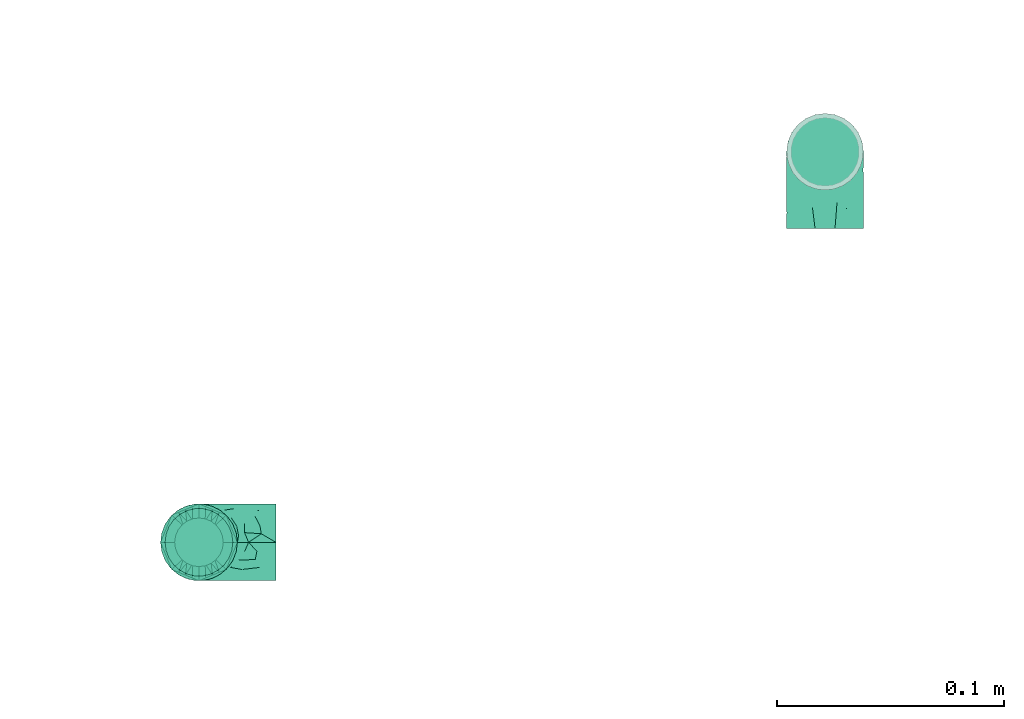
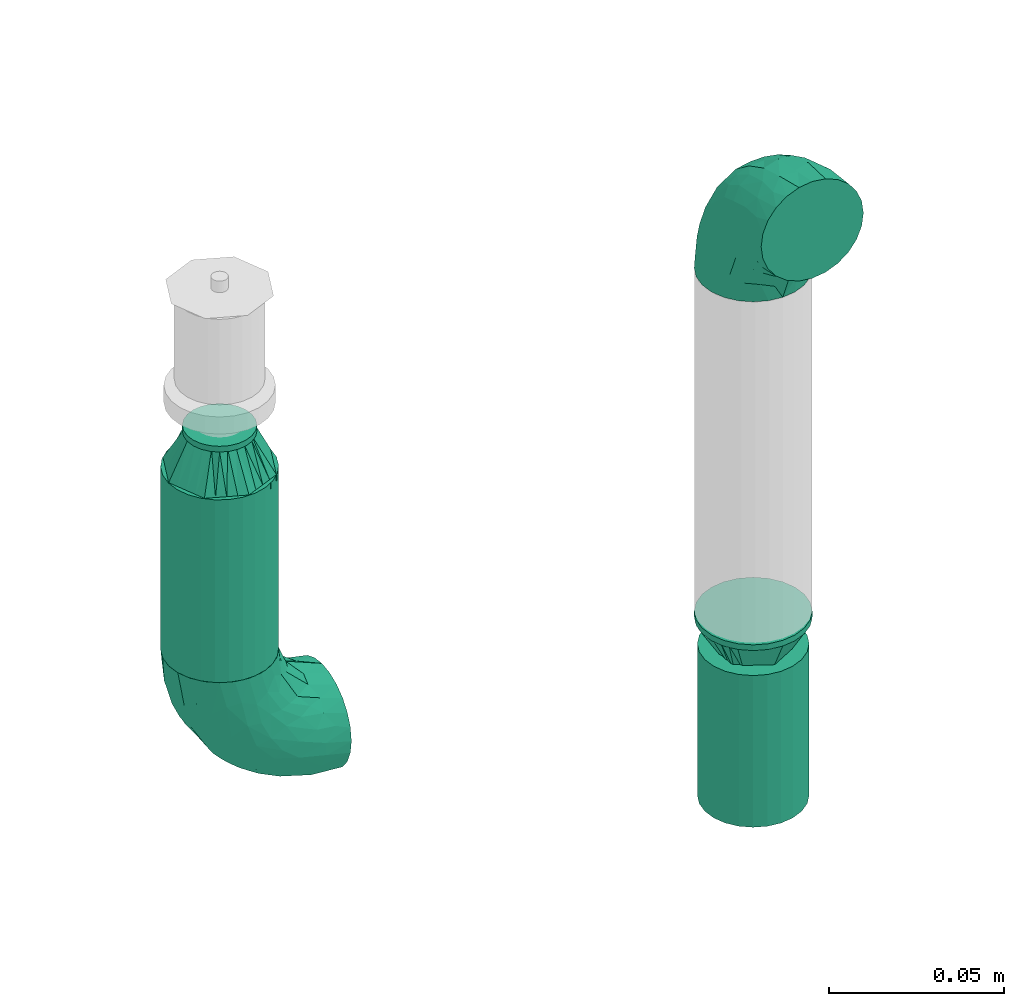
# One storey, part 128 of 157: 4 flow fittings, 1 flow segment, 1 flow terminal.
"""IFC2X3 building model written with IfcOpenShell, lengths in millimetres."""

import ifcopenshell
import ifcopenshell.guid

model = None  # the IFC model being written
_history = None  # IfcOwnerHistory: only IFC2X3 demands one
_inside = {}  # id of a spatial element -> (the spatial element, [elements in it])
_under = {}  # id of a project, library or spatial element -> (it, [spatial elements below it])
_declared = {}  # id of a project -> (the project, [libraries it declares])
_typed = {}  # id of a type object -> (the type object, [elements of that type])
_made_of = {}  # id of a material, layer set ... -> (it, [elements and type objects made of it])


def new_model(schema):
    """Start an empty IFC model of exactly this schema.

    Asked for "IFC4X3", IfcOpenShell would pick the latest addendum, in which some entities
    have other attributes; the version numbers below select the first issue.
    IFC2X3 requires an IfcOwnerHistory on every rooted entity: one is made here for all.
    """
    global model, _history
    if schema == "IFC4X3":
        model = ifcopenshell.file(schema_version=(4, 3, 0, 0))
    else:
        model = ifcopenshell.file(schema=schema)
    _inside.clear()
    _under.clear()
    _declared.clear()
    _typed.clear()
    _made_of.clear()
    _history = None
    if model.schema == "IFC2X3":
        org = make("IfcOrganization", Name="unknown")
        user = make(
            "IfcPersonAndOrganization",
            ThePerson=make("IfcPerson", FamilyName="unknown"),
            TheOrganization=org,
        )
        app = make(
            "IfcApplication",
            ApplicationDeveloper=org,
            Version="unknown",
            ApplicationFullName="unknown",
            ApplicationIdentifier="unknown",
        )
        _history = make(
            "IfcOwnerHistory",
            OwningUser=user,
            OwningApplication=app,
            ChangeAction="ADDED",
            CreationDate=0,
        )
    return model


def make(cls, **values):
    """One entity of the class cls with the attributes given. An attribute that is None is left unset."""
    return model.create_entity(
        cls, **{name: value for name, value in values.items() if value is not None}
    )


def entity(cls, *values):
    """Any entity or typed value of the class cls, its attributes in the order of the schema. None: left unset."""
    e = model.create_entity(cls)
    for i, value in enumerate(values):
        if value is not None:
            e[i] = value
    return e


def rooted(cls, **values):
    """An entity with a GlobalId (a new one), such as an element, a storey or a relation."""
    return make(cls, GlobalId=ifcopenshell.guid.new(), OwnerHistory=_history, **values)


def si_unit(unit_type, name, prefix=None):
    """IfcSIUnit, for example si_unit("LENGTHUNIT", "METRE", prefix="MILLI")."""
    return make("IfcSIUnit", UnitType=unit_type, Prefix=prefix, Name=name)


def converted_unit(unit_type, name, factor, base, dimensions=None, offset=None):
    """IfcConversionBasedUnit, such as the inch: factor (a typed value) times the base unit."""
    return make(
        "IfcConversionBasedUnit"
        if offset is None
        else "IfcConversionBasedUnitWithOffset",
        ConversionOffset=offset,
        Dimensions=None
        if dimensions is None
        else entity("IfcDimensionalExponents", *dimensions),
        UnitType=unit_type,
        Name=name,
        ConversionFactor=make(
            "IfcMeasureWithUnit", ValueComponent=factor, UnitComponent=base
        ),
    )


def derived_unit(unit_type, elements):
    """IfcDerivedUnit: a product of units, each with its exponent."""
    return make(
        "IfcDerivedUnit",
        Elements=[
            make("IfcDerivedUnitElement", Unit=unit, Exponent=power)
            for unit, power in elements
        ],
        UnitType=unit_type,
    )


def assignment(units):
    """IfcUnitAssignment: the units of a project."""
    return None if units is None else make("IfcUnitAssignment", Units=units)


def point(xyz):
    """IfcCartesianPoint."""
    return None if xyz is None else make("IfcCartesianPoint", Coordinates=xyz)


def direction(xyz):
    """IfcDirection."""
    return None if xyz is None else make("IfcDirection", DirectionRatios=xyz)


def frame(location, z_axis=None, x_axis=None):
    """IfcAxis2Placement3D, a coordinate frame: its origin and axes. An axis left out is left unset."""
    return make(
        "IfcAxis2Placement3D",
        Location=point(location),
        Axis=direction(z_axis),
        RefDirection=direction(x_axis),
    )


def frame_2d(location, x_axis=None):
    """IfcAxis2Placement2D, a coordinate frame in the plane: its origin and x axis."""
    return make(
        "IfcAxis2Placement2D", Location=point(location), RefDirection=direction(x_axis)
    )


def origin_with_axes():
    """The frame at (0, 0, 0) with the z axis (0, 0, 1) and the x axis (1, 0, 0) written out."""
    return frame((0.0, 0.0, 0.0), z_axis=(0.0, 0.0, 1.0), x_axis=(1.0, 0.0, 0.0))


def origin_2d_with_axis():
    """The frame at (0, 0) in the plane with the x axis (1, 0) written out."""
    return frame_2d((0.0, 0.0), x_axis=(1.0, 0.0))


def place(relative_to, where):
    """IfcLocalPlacement: puts the frame where relative to a parent placement (None: the world)."""
    return make(
        "IfcLocalPlacement", PlacementRelTo=relative_to, RelativePlacement=where
    )


def context(
    kind, dimensions, precision=None, world=None, true_north=None, identifier=None
):
    """IfcGeometricRepresentationContext, for example the 3D "Model" context."""
    return make(
        "IfcGeometricRepresentationContext",
        ContextIdentifier=identifier,
        ContextType=kind,
        CoordinateSpaceDimension=dimensions,
        Precision=precision,
        WorldCoordinateSystem=world,
        TrueNorth=true_north,
    )


def subcontext(parent, identifier, kind, view, scale=None):
    """IfcGeometricRepresentationSubContext, for example "Body" below "Model"."""
    return make(
        "IfcGeometricRepresentationSubContext",
        ContextIdentifier=identifier,
        ContextType=kind,
        ParentContext=parent,
        TargetScale=scale,
        TargetView=view,
    )


def project(units=None, contexts=None):
    """IfcProject with its units and contexts."""
    return rooted(
        "IfcProject",
        Name="project",
        RepresentationContexts=contexts,
        UnitsInContext=assignment(units),
    )


def spatial(cls, under=None, at=None, **own):
    """A site, building, storey or space (cls), placed at a placement, below another one or the project."""
    s = rooted(cls, ObjectPlacement=at, **own)
    if under is not None:
        _under.setdefault(under.id(), (under, []))[1].append(s)
    return s


def profile(cls, at=None, kind="AREA", **sizes):
    """A parametric profile (cls). Its sizes go by their IFC names, for example OverallWidth=200.0."""
    return make(cls, ProfileType=kind, Position=at, **sizes)


def hollow_circle(**sizes):
    """IfcCircleHollowProfileDef."""
    return profile("IfcCircleHollowProfileDef", **sizes)


def extrude(swept, where, along, depth):
    """IfcExtrudedAreaSolid: the profile swept, set in the frame where, extruded along a direction by depth."""
    return make(
        "IfcExtrudedAreaSolid",
        SweptArea=swept,
        Position=where,
        ExtrudedDirection=direction(along),
        Depth=depth,
    )


def faces_of(points, faces, orient=None, outer=None):
    """IfcFace entities. A face is a list of loops; a loop is a list of indices into points, from 0.

    orient and outer hold one flag for each loop. By default every Orientation is true, the
    first loop of a face is its IfcFaceOuterBound and the others are IfcFaceBound.
    """
    made = []
    for i, loops in enumerate(faces):
        bounds = []
        for j, loop in enumerate(loops):
            is_outer = j == 0 if outer is None else outer[i][j]
            bounds.append(
                make(
                    "IfcFaceOuterBound" if is_outer else "IfcFaceBound",
                    Bound=make("IfcPolyLoop", Polygon=[points[k] for k in loop]),
                    Orientation=True if orient is None else orient[i][j],
                )
            )
        made.append(make("IfcFace", Bounds=bounds))
    return made


def open_shell(faces, orient=None, outer=None):
    """The faces of one IfcOpenShell. surface_model builds it on its shared points."""
    return ("IfcOpenShell", faces, orient, outer)


def surface_model(cls, points, shells):
    """IfcFaceBasedSurfaceModel or IfcShellBasedSurfaceModel (cls): surfaces that need not close."""
    shared = [point(p) for p in points]
    made = [make(c, CfsFaces=faces_of(shared, fs, o, b)) for c, fs, o, b in shells]
    if cls == "IfcFaceBasedSurfaceModel":
        return make(cls, FbsmFaces=made)
    return make(cls, SbsmBoundary=made)


def shape(context_of_items, identifier, shape_type, items):
    """IfcShapeRepresentation: the items that make up one representation, for example the "Body"."""
    return make(
        "IfcShapeRepresentation",
        ContextOfItems=context_of_items,
        RepresentationIdentifier=identifier,
        RepresentationType=shape_type,
        Items=items,
    )


def source(mapping_origin, context_of_items, identifier, shape_type, items):
    """IfcRepresentationMap: a shape defined once, which mapped items show again and again."""
    return make(
        "IfcRepresentationMap",
        MappingOrigin=mapping_origin,
        MappedRepresentation=shape(context_of_items, identifier, shape_type, items),
    )


def transform(
    local_origin,
    x_axis=None,
    y_axis=None,
    z_axis=None,
    scale=None,
    scale2=None,
    scale3=None,
    uniform=True,
):
    """IfcCartesianTransformationOperator3D, or its non-uniform kind. x_axis, y_axis, z_axis: its Axis1, 2, 3."""
    if uniform:
        return make(
            "IfcCartesianTransformationOperator3D",
            Axis1=direction(x_axis),
            Axis2=direction(y_axis),
            LocalOrigin=point(local_origin),
            Scale=scale,
            Axis3=direction(z_axis),
        )
    return make(
        "IfcCartesianTransformationOperator3DnonUniform",
        Axis1=direction(x_axis),
        Axis2=direction(y_axis),
        LocalOrigin=point(local_origin),
        Scale=scale,
        Axis3=direction(z_axis),
        Scale2=scale2,
        Scale3=scale3,
    )


def mapped(mapping_source, mapping_target):
    """IfcMappedItem: shows the shape of a source again, moved by a transform."""
    return make(
        "IfcMappedItem", MappingSource=mapping_source, MappingTarget=mapping_target
    )


def made_of(thing, what):
    """Note that an element or type object is made of a material, layer set ...; save() writes the relation."""
    if what is not None:
        _made_of.setdefault(what.id(), (what, []))[1].append(thing)
    return thing


def type_object(cls, material=None, **own):
    """A type object (cls), such as IfcWallType, which elements share."""
    return made_of(rooted(cls, **own), material)


def element(
    cls,
    number,
    at=None,
    inside=None,
    cuts=None,
    type_object=None,
    material=None,
    context=None,
    identifier="Body",
    shape_type=None,
    held_by="IfcProductDefinitionShape",
    body=None,
    shapes=None,
    **own,
):
    """One element of the class cls, such as IfcWall. Its Tag is "e" and its number.

    at: its placement. inside: the storey or other place that contains it. cuts: it is an
    opening in that element (IfcRelVoidsElement). A single representation is given by context,
    identifier, shape_type and body (its items); several are given by shapes. held_by: the class
    of the entity that holds the representations. save() writes the other relations.
    """
    e = rooted(cls, Tag="e%d" % number, ObjectPlacement=at, **own)
    if body is not None:
        shapes = [shape(context, identifier, shape_type, body)]
    if shapes is not None:
        e.Representation = make(held_by, Representations=shapes)
    if inside is not None:
        _inside.setdefault(inside.id(), (inside, []))[1].append(e)
    if cuts is not None:
        rooted(
            "IfcRelVoidsElement", RelatingBuildingElement=cuts, RelatedOpeningElement=e
        )
    if type_object is not None:
        _typed.setdefault(type_object.id(), (type_object, []))[1].append(e)
    return made_of(e, material)


def aggregate(whole, parts):
    """IfcRelAggregates: a whole, such as a stair, and the parts it consists of."""
    return rooted("IfcRelAggregates", RelatingObject=whole, RelatedObjects=parts)


def save(model, path):
    """Write the relations noted so far, then the file.

    IfcRelAggregates (storeys below a building ...), IfcRelContainedInSpatialStructure (elements
    in a storey), IfcRelDefinesByType, IfcRelAssociatesMaterial and IfcRelDeclares: one each for
    every whole, place, type object, material and project.
    """
    for whole, parts in _under.values():
        aggregate(whole, parts)
    for where, things in _inside.values():
        rooted(
            "IfcRelContainedInSpatialStructure",
            RelatedElements=things,
            RelatingStructure=where,
        )
    for kind, things in _typed.values():
        rooted("IfcRelDefinesByType", RelatedObjects=things, RelatingType=kind)
    for what, things in _made_of.values():
        rooted("IfcRelAssociatesMaterial", RelatedObjects=things, RelatingMaterial=what)
    for by, libraries in _declared.values():
        rooted("IfcRelDeclares", RelatingContext=by, RelatedDefinitions=libraries)
    model.write(path)


model = new_model("IFC2X3")

# Units and contexts
model_context = context("Model", 3, precision=0.01, world=frame((0.0, 4.29681676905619e-09, 0.0)), true_north=direction((4.01073788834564e-13, 1.0)))
plan_context = context("Plan", 3, precision=0.01, world=frame((0.0, 4.29681676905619e-09, 0.0)), true_north=direction((4.01073788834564e-13, 1.0)))
body_context = subcontext(model_context, "Body", "Model", "MODEL_VIEW")
ifc_project = project(units=[converted_unit("PLANEANGLEUNIT", "DEGREE", entity("IfcPositiveLengthMeasure", 0.0174532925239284), si_unit("PLANEANGLEUNIT", "RADIAN"), dimensions=[0, 0, 0, 0, 0, 0, 0]), si_unit("AREAUNIT", "SQUARE_METRE"), si_unit("LENGTHUNIT", "METRE", prefix="MILLI"), si_unit("MASSUNIT", "GRAM", prefix="KILO"), si_unit("POWERUNIT", "WATT"), si_unit("PRESSUREUNIT", "PASCAL"), si_unit("FORCEUNIT", "NEWTON", prefix="KILO"), si_unit("ELECTRICCURRENTUNIT", "AMPERE"), si_unit("THERMODYNAMICTEMPERATUREUNIT", "DEGREE_CELSIUS"), si_unit("TIMEUNIT", "SECOND"), si_unit("VOLUMEUNIT", "CUBIC_METRE"), derived_unit("LINEARVELOCITYUNIT", [(si_unit("LENGTHUNIT", "METRE"), 1), (si_unit("TIMEUNIT", "SECOND"), -1)]), derived_unit("VOLUMETRICFLOWRATEUNIT", [(si_unit("VOLUMEUNIT", "CUBIC_METRE"), 1), (si_unit("TIMEUNIT", "SECOND"), -1)]), derived_unit("THERMALTRANSMITTANCEUNIT", [(si_unit("POWERUNIT", "WATT"), 1), (si_unit("THERMODYNAMICTEMPERATUREUNIT", "KELVIN"), -1), (si_unit("AREAUNIT", "SQUARE_METRE"), -1)])], contexts=[model_context, plan_context])

# Site, building, storey
site_placement = place(None, frame((0.0, -4.29681676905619e-09, 0.0), z_axis=(0.0, 0.0, 1.0), x_axis=(1.0, 0.0, 0.0)))
site = spatial("IfcSite", under=ifc_project, at=site_placement, CompositionType="ELEMENT")
building_placement = place(site_placement, frame((0.0, 4.29681676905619e-09, 0.0), z_axis=(0.0, 0.0, 1.0), x_axis=(1.0, 0.0, 0.0)))
building = spatial("IfcBuilding", under=site, at=building_placement, Name="mc-building", CompositionType="ELEMENT")
storey_placement = place(building_placement, frame((0.0, 0.0, 204000.0), z_axis=(0.0, 0.0, 1.0), x_axis=(1.0, 0.0, 0.0)))
storey = spatial("IfcBuildingStorey", under=building, at=storey_placement, Name="Nivå D", CompositionType="ELEMENT", Elevation=204000.0)

# Flow fittings
pipe_fitting_type_1 = type_object("IfcPipeFittingType", Name="magi_pipe_fe_elbow_short_001", PredefinedType="BEND")
shared_shape_1 = source(origin_with_axes(), body_context, "Body", "SurfaceModel", [
    surface_model("IfcShellBasedSurfaceModel", [(-33.8, 8.45, -14.63583), (-33.8, 4.37404, -16.32415), (-33.8, 11.9501, -11.9501), (-33.8, -11.9501, -11.9501), (-33.8, -14.63583, -8.45), (-33.8, -8.45, -14.63583), (-33.8, 0.0, -16.9), (-33.8, -4.37404, -16.32415), (-33.8, -4.37404, 16.32415), (-33.8, 0.0, 16.9), (-33.8, -8.45, 14.63583), (-33.8, 16.32415, -4.37404), (-33.8, 14.63583, -8.45), (-33.8, -16.32415, -4.37404), (-33.8, -16.9, 0.0), (-33.8, -16.32415, 4.37404), (-33.8, 11.9501, 11.9501), (-33.8, 14.63583, 8.45), (-33.8, 16.32415, 4.37404), (-33.8, 4.37404, 16.32415), (-33.8, 8.45, 14.63583), (-33.8, -14.63583, 8.45), (-33.8, -11.9501, 11.9501), (-33.8, 16.9, 0.0), (-11.9501, 33.8, -11.9501), (0.0, 33.8, -16.9), (-4.37404, 33.8, -16.32415), (-8.45, 33.8, -14.63583), (-14.63583, 33.8, -8.45), (-16.32415, 33.8, -4.37404), (14.63583, 33.8, -8.45), (8.45, 33.8, 14.63583), (16.32415, 33.8, -4.37404), (8.45, 33.8, -14.63583), (11.9501, 33.8, -11.9501), (4.37404, 33.8, -16.32415), (16.32415, 33.8, 4.37404), (16.9, 33.8, 0.0), (-11.9501, 33.8, 11.9501), (-16.32415, 33.8, 4.37404), (-14.63583, 33.8, 8.45), (-8.45, 33.8, 14.63583), (-4.37404, 33.8, 16.32415), (11.9501, 33.8, 11.9501), (14.63583, 33.8, 8.45), (0.0, 33.8, 16.9), (4.37404, 33.8, 16.32415), (-16.9, 33.8, 0.0), (-24.79389, -13.12945, 9.48721), (-22.19287, -9.75018, 12.59315), (-24.09897, -14.97035, 0.0), (-14.93934, -10.76256, 8.5297), (-22.46095, -14.75051, 5.27077), (14.75051, 22.46094, 5.27077), (11.9251, 13.23888, 4.33236), (13.04069, 14.39795, 0.0), (7.71387, 13.68847, 11.55891), (9.75018, 22.19287, 12.59315), (4.10169, 13.0571, 14.04018), (-24.84007, -6.39063, 15.2048), (-25.81779, -2.23879, 16.61097), (-23.66549, 2.59054, 16.87119), (-26.50418, 14.06512, 11.08152), (-24.21253, 17.66365, 7.72657), (-29.58514, 15.86957, 7.00283), (-6.17382, -7.5455, 0.0), (-13.23888, -11.9251, 4.33236), (-14.39795, -13.04069, 0.0), (-17.81434, 18.87373, 11.97104), (-6.30846, 29.15138, 15.82987), (-2.31622, 25.28002, 16.85849), (-29.23923, 10.23435, 13.77053), (-1.45439, -2.85688, 7.61475), (-0.28326, 0.34872, 10.09509), (-5.74484, -4.04709, 10.4122), (-4.41137, 11.31918, 16.59407), (-8.39727, 3.10034, 15.7812), (-1.72649, 9.1306, 15.53089), (-17.39909, 24.75344, 7.64977), (-26.19233, 20.0512, 0.0), (-28.14518, 17.29657, 4.25857), (-26.05147, 6.6281, 15.96447), (-5.87354, 16.61944, 16.86968), (-12.51807, 12.51807, 16.48937), (-10.06312, 7.38516, 16.81295), (-3.01882, 3.01882, 13.81718), (-13.0571, -4.10169, 14.04018), (-16.82553, -0.15166, 16.38038), (10.76256, 14.93934, 8.5297), (13.12945, 24.79389, 9.48721), (6.39063, 24.84007, 15.2048), (2.23879, 25.81779, 16.61097), (-13.68847, -7.71387, 11.55891), (14.97035, 24.09897, 0.0), (-7.30894, 22.89991, 16.09489), (-10.67958, 26.17414, 14.008), (-12.78295, 18.26924, 15.06066), (-13.88562, 22.45231, 12.93244), (-18.04944, 15.16501, 14.04434), (-23.11658, 20.08178, 4.02986), (-21.84989, 21.84989, 0.0), (-18.55817, 25.48277, 3.93065), (-13.95142, 26.94732, 11.03289), (-18.57098, 7.23906, 16.59756), (-16.58335, 4.14122, 16.89279), (-17.96666, 11.46709, 15.63151), (-9.84453, 17.54304, 16.18938), (0.15166, 16.82553, 16.38038), (-23.27207, 11.47201, 14.23154), (3.84842, 5.86994, 10.70473), (-8.0212, -7.54413, 7.93275), (1.00345, -2.19508, 4.57414), (5.13203, 3.01004, 5.90201), (5.24161, 1.7543, 2.53265), (8.70457, 7.04947, 3.99182), (-20.0512, 26.19233, 0.0), (8.4852, 8.76699, 7.09296), (-4.55488, -6.72064, 4.90681), (2.05031, -2.05031, 0.0), (7.5455, 6.17382, 0.0), (-26.75399, 2.1369, -16.845), (-14.61995, 24.73803, -11.27736), (-28.45274, -13.45335, -9.81895), (-26.00469, 6.63555, -15.96645), (-23.06726, 20.04573, -4.26202), (-13.80647, -4.26506, -14.17873), (-14.67501, -0.21081, -16.07388), (-6.7902, -0.2828, -13.8478), (-24.53586, 11.08096, -14.13417), (-26.72048, 14.00837, -11.05776), (10.0967, 24.44989, -12.75976), (5.83237, 21.40218, -15.03047), (6.66249, 28.54238, -15.38093), (-20.38182, 15.48705, -12.74596), (12.53268, 21.23441, -9.15363), (12.54494, 15.67504, -5.54878), (9.7522, 12.89279, -8.66343), (-15.65186, 19.64213, -13.01327), (-12.03528, 20.66498, -14.67665), (-15.61907, 15.61906, -14.83879), (-25.56551, -15.26206, 0.0), (-24.65452, -15.12934, -5.50955), (13.45335, 28.45274, -9.81895), (15.12934, 24.65452, -5.50955), (-7.35442, -8.31014, -5.65563), (-15.67504, -12.54494, -5.54878), (-24.44989, -10.0967, -12.75976), (0.16522, 0.41303, -9.71728), (-5.70658, -5.33066, -8.89288), (-5.13869, -2.37198, -11.53565), (-21.23441, -12.53268, -9.15363), (0.71146, 7.93863, -14.09382), (0.21081, 14.67501, -16.07388), (3.49291, 14.42772, -14.76381), (-24.89911, -2.13088, -16.591), (-28.54238, -6.66249, -15.38093), (-18.44386, -7.71663, -13.26957), (2.13088, 24.89911, -16.591), (-28.64342, 17.44413, -2.89318), (1.70017, -1.28722, -5.09504), (-16.57067, 26.81947, -7.36596), (-17.69055, 27.4263, -3.76405), (-12.89279, -9.7522, -8.66343), (-5.96611, 5.96611, -15.95814), (-20.53709, 20.09345, -8.28985), (-2.1369, 26.75399, -16.845), (-6.89872, 24.58781, -16.02578), (-10.60739, 26.53157, -13.98044), (-21.40218, -5.83237, -15.03047), (2.93192, 5.89627, -11.55917), (6.89393, 12.61842, -11.82233), (5.58056, 5.95325, -8.79455), (-3.99512, 18.61798, -16.89635), (8.31014, 7.35442, -5.65563), (-9.1383, 9.86148, -16.89041), (-9.99983, 16.02119, -16.39699), (-16.68576, 9.78031, -16.34199), (-27.01915, 16.61158, -7.12979), (15.26206, 25.56551, 0.0), (-18.61798, 3.99512, -16.89635), (-19.37495, 27.82495, 0.0), (-12.61842, -6.89393, -11.82233), (-18.84705, 19.14018, -10.96545)], [open_shell([[[0, 1, 2]], [[3, 4, 5]], [[6, 7, 5]], [[8, 9, 10]], [[1, 6, 2]], [[11, 12, 2]], [[4, 2, 6]], [[2, 13, 10]], [[5, 4, 6]], [[2, 4, 13]], [[14, 15, 13]], [[11, 2, 16]], [[11, 17, 18]], [[11, 16, 17]], [[19, 20, 16]], [[16, 2, 10]], [[19, 16, 10]], [[21, 22, 15]], [[22, 13, 15]], [[22, 10, 13]], [[10, 9, 19]], [[11, 18, 23]], [[24, 25, 26]], [[24, 26, 27]], [[24, 28, 29]], [[25, 24, 30]], [[31, 32, 24]], [[33, 30, 34]], [[33, 35, 25]], [[25, 30, 33]], [[32, 30, 24]], [[32, 36, 37]], [[38, 24, 29]], [[39, 40, 29]], [[40, 38, 29]], [[38, 41, 42]], [[38, 31, 24]], [[31, 38, 42]], [[36, 43, 44]], [[36, 32, 43]], [[31, 45, 46]], [[32, 31, 43]], [[42, 45, 31]], [[39, 29, 47]], [[22, 48, 49]], [[15, 14, 50]], [[51, 48, 52]], [[53, 54, 55]], [[48, 22, 21]], [[15, 52, 21]], [[56, 57, 58]], [[49, 10, 22]], [[49, 59, 10]], [[9, 60, 61]], [[62, 63, 64]], [[65, 66, 67]], [[57, 43, 31]], [[62, 68, 63]], [[42, 69, 70]], [[20, 71, 16]], [[8, 60, 9]], [[72, 73, 74]], [[75, 76, 77]], [[16, 62, 17]], [[40, 39, 78]], [[79, 23, 80]], [[64, 18, 17]], [[9, 61, 19]], [[19, 81, 20]], [[82, 83, 84]], [[74, 85, 86]], [[59, 86, 87]], [[88, 89, 57]], [[90, 31, 46]], [[44, 53, 36]], [[46, 45, 91]], [[54, 53, 88]], [[44, 89, 53]], [[92, 86, 49]], [[89, 44, 43]], [[10, 59, 8]], [[53, 55, 93]], [[93, 36, 53]], [[66, 52, 67]], [[94, 82, 70]], [[95, 96, 94]], [[97, 98, 96]], [[79, 99, 100]], [[41, 38, 95]], [[101, 100, 99]], [[68, 78, 63]], [[42, 41, 69]], [[23, 18, 80]], [[95, 94, 69]], [[78, 101, 99]], [[38, 102, 95]], [[70, 45, 42]], [[97, 95, 102]], [[15, 50, 52]], [[90, 57, 31]], [[57, 90, 58]], [[81, 19, 61]], [[103, 104, 84]], [[105, 81, 103]], [[38, 40, 102]], [[106, 96, 83]], [[94, 106, 82]], [[91, 70, 107]], [[71, 62, 16]], [[62, 108, 98]], [[86, 59, 49]], [[67, 52, 50]], [[60, 59, 87]], [[92, 49, 51]], [[86, 85, 76]], [[91, 90, 46]], [[37, 36, 93]], [[107, 77, 58]], [[107, 58, 90]], [[58, 85, 109]], [[110, 74, 92]], [[72, 74, 110]], [[66, 51, 52]], [[72, 111, 112]], [[113, 114, 112]], [[56, 88, 57]], [[52, 48, 21]], [[49, 48, 51]], [[57, 89, 43]], [[53, 89, 88]], [[103, 81, 61]], [[71, 81, 108]], [[18, 64, 80]], [[63, 78, 99]], [[47, 115, 101]], [[101, 115, 100]], [[40, 78, 102]], [[68, 102, 78]], [[97, 96, 95]], [[105, 98, 108]], [[103, 84, 83]], [[107, 70, 82]], [[76, 84, 87]], [[82, 84, 75]], [[70, 91, 45]], [[90, 91, 107]], [[59, 60, 8]], [[61, 60, 87]], [[73, 85, 74]], [[109, 112, 116]], [[103, 61, 104]], [[105, 103, 83]], [[96, 105, 83]], [[81, 105, 108]], [[96, 98, 105]], [[62, 98, 68]], [[61, 87, 104]], [[87, 84, 104]], [[86, 76, 87]], [[77, 76, 85]], [[58, 77, 85]], [[75, 77, 107]], [[82, 75, 107]], [[76, 75, 84]], [[81, 71, 20]], [[62, 71, 108]], [[95, 69, 41]], [[70, 69, 94]], [[62, 64, 17]], [[80, 63, 99]], [[63, 80, 64]], [[80, 99, 79]], [[66, 65, 117]], [[110, 66, 117]], [[112, 114, 116]], [[118, 117, 65]], [[110, 92, 51]], [[112, 111, 113]], [[119, 55, 54]], [[74, 86, 92]], [[58, 109, 56]], [[116, 56, 109]], [[66, 110, 51]], [[72, 110, 117]], [[111, 72, 117]], [[73, 112, 109]], [[117, 118, 111]], [[113, 111, 118]], [[118, 119, 113]], [[114, 119, 54]], [[119, 114, 113]], [[116, 54, 88]], [[54, 116, 114]], [[116, 88, 56]], [[112, 73, 72]], [[85, 73, 109]], [[78, 39, 101]], [[47, 101, 39]], [[102, 68, 97]], [[97, 68, 98]], [[82, 106, 83]], [[94, 96, 106]], [[1, 120, 6]], [[28, 24, 121]], [[3, 122, 4]], [[0, 123, 1]], [[100, 124, 79]], [[125, 126, 127]], [[128, 2, 129]], [[130, 131, 132]], [[128, 129, 133]], [[134, 135, 136]], [[137, 138, 139]], [[128, 0, 2]], [[67, 140, 141]], [[134, 142, 143]], [[141, 13, 4]], [[144, 65, 145]], [[146, 3, 5]], [[147, 148, 149]], [[145, 141, 150]], [[151, 152, 153]], [[154, 7, 6]], [[5, 155, 146]], [[150, 146, 156]], [[155, 5, 7]], [[143, 135, 134]], [[35, 157, 25]], [[23, 79, 158]], [[148, 159, 144]], [[160, 161, 29]], [[145, 162, 144]], [[163, 152, 151]], [[29, 28, 160]], [[121, 164, 160]], [[33, 34, 130]], [[25, 165, 26]], [[26, 165, 166]], [[142, 34, 30]], [[24, 27, 167]], [[124, 161, 164]], [[157, 35, 132]], [[155, 154, 168]], [[123, 0, 128]], [[169, 170, 171]], [[172, 157, 152]], [[26, 166, 27]], [[132, 35, 33]], [[142, 130, 34]], [[168, 154, 126]], [[136, 135, 173]], [[133, 137, 139]], [[2, 12, 129]], [[170, 131, 130]], [[30, 32, 143]], [[172, 174, 175]], [[176, 123, 128]], [[158, 177, 11]], [[135, 55, 119]], [[167, 27, 166]], [[175, 166, 172]], [[137, 167, 138]], [[122, 141, 4]], [[140, 14, 13]], [[32, 37, 178]], [[170, 130, 134]], [[152, 157, 131]], [[165, 157, 172]], [[153, 170, 151]], [[152, 163, 174]], [[168, 125, 156]], [[122, 146, 150]], [[120, 154, 6]], [[179, 174, 126]], [[179, 126, 154]], [[126, 163, 127]], [[162, 145, 150]], [[140, 13, 141]], [[32, 178, 143]], [[55, 143, 178]], [[177, 129, 12]], [[128, 133, 139]], [[176, 128, 139]], [[120, 123, 179]], [[121, 160, 28]], [[161, 100, 180]], [[166, 175, 138]], [[121, 24, 167]], [[161, 47, 29]], [[79, 124, 158]], [[124, 164, 177]], [[161, 124, 100]], [[136, 171, 170]], [[127, 163, 151]], [[147, 171, 159]], [[148, 144, 162]], [[127, 151, 169]], [[127, 181, 125]], [[129, 177, 164]], [[12, 11, 177]], [[159, 65, 144]], [[67, 141, 145]], [[143, 55, 135]], [[135, 119, 173]], [[123, 120, 1]], [[154, 120, 179]], [[157, 165, 25]], [[166, 165, 172]], [[172, 152, 174]], [[176, 139, 175]], [[126, 174, 163]], [[176, 174, 179]], [[174, 176, 175]], [[123, 176, 179]], [[150, 181, 162]], [[127, 149, 181]], [[181, 148, 162]], [[159, 148, 147]], [[171, 136, 173]], [[170, 134, 136]], [[159, 171, 173]], [[171, 147, 169]], [[169, 147, 149]], [[151, 170, 169]], [[164, 182, 129]], [[182, 121, 137]], [[181, 149, 148]], [[169, 149, 127]], [[182, 137, 133]], [[167, 137, 121]], [[166, 138, 167]], [[175, 139, 138]], [[129, 182, 133]], [[121, 182, 164]], [[161, 160, 164]], [[47, 161, 180]], [[177, 158, 124]], [[23, 158, 11]], [[130, 132, 33]], [[157, 132, 131]], [[143, 142, 30]], [[130, 142, 134]], [[154, 155, 7]], [[146, 155, 168]], [[146, 122, 3]], [[141, 122, 150]], [[152, 131, 153]], [[159, 119, 118]], [[67, 145, 65]], [[170, 153, 131]], [[119, 159, 173]], [[159, 118, 65]], [[156, 125, 181]], [[126, 125, 168]], [[150, 156, 181]], [[168, 156, 146]]])]),
])
for number, where, z_axis, x_axis, name in (
    (1, (515747.4699, 418378.86777, 2565.0), (0.0, -1.0, 0.0), (0.0, 0.0, -1.0), "magi_pipe_fe_elbow_short_001"),
    (2, (516023.00602, 418550.71124, 2565.0), (1.0, 0.0, 0.0), (0.0, 0.0, 1.0), "magi_pipe_fe_elbow_short_001"),
):
    element("IfcFlowFitting", number, at=place(storey_placement, frame(where, z_axis=z_axis, x_axis=x_axis)), inside=storey, type_object=pipe_fitting_type_1, Name=name, context=body_context, shape_type="MappedRepresentation", body=[
        mapped(shared_shape_1, transform((0.0, 0.0, 0.0), scale=1.0)),
    ])
pipe_fitting_type_2 = type_object("IfcPipeFittingType", Name="magi_pipe_fe_reducer_centric_short_NOR", PredefinedType="TRANSITION")
shared_shape_2 = source(origin_with_axes(), body_context, "Body", "SurfaceModel", [
    surface_model("IfcShellBasedSurfaceModel", [(-2.0, -7.56604, -7.56604), (-2.0, -10.33541, -2.76936), (-2.0, -5.35, -9.26647), (-2.0, 5.35, -9.26647), (-2.0, 10.33541, -2.76936), (-2.0, 7.56604, -7.56604), (12.4, 11.9501, 11.9501), (12.4, 0.0, 16.9), (12.4, 11.9501, -11.9501), (12.4, 16.9, 0.0), (0.0, -10.7, 0.0), (0.0, -5.35, 9.26647), (0.0, -5.35, -9.26647), (0.0, 10.7, 0.0), (12.4, 15.66253, -2.98753), (12.4, 8.96258, -13.18758), (0.0, 6.6875, -6.94985), (12.4, -15.66253, -2.98753), (12.4, -16.9, 0.0), (12.4, 5.97505, -14.42505), (0.0, 5.35, -9.26647), (12.4, 14.42505, -5.97505), (0.0, 8.025, -4.63324), (0.0, 9.3625, -2.31662), (0.0, -9.3625, -2.31662), (0.0, -8.025, -4.63324), (12.4, -14.42505, -5.97505), (12.4, 13.18758, -8.96258), (12.4, -13.18758, -8.96258), (12.4, -11.9501, -11.9501), (0.0, -6.6875, -6.94985), (12.4, -8.96258, -13.18758), (12.4, -5.97505, -14.42505), (12.4, -15.66253, 2.98753), (12.4, -8.96258, 13.18758), (0.0, -6.6875, 6.94985), (12.4, -11.9501, 11.9501), (12.4, 15.66253, 2.98753), (12.4, -5.97505, 14.42505), (12.4, -14.42505, 5.97505), (0.0, -8.025, 4.63324), (0.0, -9.3625, 2.31662), (0.0, 9.3625, 2.31662), (0.0, 8.025, 4.63324), (12.4, 14.42505, 5.97505), (12.4, -13.18758, 8.96258), (12.4, 13.18758, 8.96258), (0.0, 6.6875, 6.94985), (12.4, 8.96258, 13.18758), (0.0, 5.35, 9.26647), (12.4, 5.97505, 14.42505), (14.4, 4.37404, -16.32415), (14.4, 8.45, -14.63583), (14.4, 11.9501, -11.9501), (14.4, -8.45, -14.63583), (14.4, 16.32415, -4.37404), (14.4, 16.32415, 4.37404), (14.4, 14.63583, -8.45), (14.4, 0.0, -16.9), (14.4, -4.37404, -16.32415), (14.4, -11.9501, -11.9501), (14.4, -16.32415, -4.37404), (14.4, -14.63583, -8.45), (14.4, -16.32415, 4.37404), (14.4, 16.9, 0.0), (14.4, 14.63583, 8.45), (14.4, 11.9501, 11.9501), (14.4, 4.37404, 16.32415), (14.4, 8.45, 14.63583), (14.4, 0.0, 16.9), (14.4, -14.63583, 8.45), (14.4, -16.9, 0.0), (14.4, -8.45, 14.63583), (14.4, -11.9501, 11.9501), (14.4, -4.37404, 16.32415), (12.4, 4.37404, 16.32415), (12.4, -14.63583, 8.45), (12.4, 16.32415, 4.37404), (12.4, 8.45, 14.63583), (12.4, 14.63583, 8.45), (12.4, -8.45, 14.63583), (12.4, -4.37404, 16.32415), (12.4, -16.32415, 4.37404), (12.4, -16.32415, -4.37404), (12.4, -8.45, -14.63583), (12.4, 16.32415, -4.37404), (12.4, 14.63583, -8.45), (12.4, 8.45, -14.63583), (12.4, 4.37404, -16.32415), (12.4, 0.0, -16.9), (12.4, -14.63583, -8.45), (12.4, -4.37404, -16.32415), (-2.0, 2.76936, 10.33541), (-2.0, 0.0, 10.7), (-2.0, 5.35, 9.26647), (-2.0, 7.56604, 7.56604), (-2.0, 9.26647, 5.35), (-2.0, 10.33541, 2.76936), (-2.0, -10.33541, 2.76936), (-2.0, -2.76936, 10.33541), (-2.0, -7.56604, 7.56604), (-2.0, -5.35, 9.26647), (-2.0, -9.26647, 5.35), (-2.0, -10.7, 0.0), (-2.0, 9.26647, -5.35), (-2.0, 2.76936, -10.33541), (-2.0, -9.26647, -5.35), (-2.0, 0.0, -10.7), (-2.0, -2.76936, -10.33541), (-2.0, 10.7, 0.0), (0.0, 0.0, -10.7), (0.0, 2.76936, -10.33541), (0.0, 10.33541, -2.76936), (0.0, 7.56604, -7.56604), (0.0, -10.33541, -2.76936), (0.0, 9.26647, -5.35), (0.0, 0.0, 10.7), (0.0, -2.76936, -10.33541), (0.0, -7.56604, -7.56604), (0.0, -9.26647, -5.35), (0.0, 10.33541, 2.76936), (0.0, 9.26647, 5.35), (0.0, 7.56604, 7.56604), (0.0, 2.76936, 10.33541), (0.0, -7.56604, 7.56604), (0.0, -10.33541, 2.76936), (0.0, -9.26647, 5.35), (0.0, -2.76936, 10.33541), (0.0, 2.675, -9.26647), (0.0, -2.675, -9.26647), (12.4, 2.98753, -15.66253), (0.0, 0.0, -9.26647), (12.4, -2.98753, -15.66253), (0.0, -2.675, 9.26647), (0.0, 2.675, 9.26647), (12.4, -2.98753, 15.66253), (0.0, 0.0, 9.26647), (12.4, 2.98753, 15.66253)], [open_shell([[[0, 1, 2]], [[3, 4, 5]], [[6, 7, 8]], [[8, 9, 6]], [[10, 11, 12]], [[13, 9, 14]], [[15, 16, 8]], [[17, 18, 10]], [[15, 19, 20]], [[21, 22, 23]], [[24, 25, 26]], [[22, 21, 27]], [[28, 26, 25]], [[29, 30, 31]], [[12, 32, 31]], [[10, 18, 33]], [[34, 35, 36]], [[37, 9, 13]], [[34, 38, 11]], [[39, 40, 41]], [[42, 43, 44]], [[40, 39, 45]], [[46, 44, 43]], [[6, 47, 48]], [[49, 50, 48]], [[51, 52, 53]], [[54, 51, 53]], [[53, 55, 56]], [[55, 53, 57]], [[53, 56, 54]], [[58, 54, 59]], [[58, 51, 54]], [[60, 61, 62]], [[61, 60, 54]], [[54, 63, 61]], [[56, 55, 64]], [[56, 65, 66]], [[56, 66, 67]], [[67, 63, 54]], [[67, 66, 68]], [[63, 67, 69]], [[69, 70, 63]], [[71, 61, 63]], [[70, 72, 73]], [[70, 69, 72]], [[72, 69, 74]], [[54, 56, 67]], [[75, 76, 7]], [[77, 75, 78]], [[6, 79, 77]], [[6, 77, 78]], [[76, 75, 77]], [[80, 76, 36]], [[80, 81, 7]], [[7, 76, 80]], [[82, 76, 77]], [[82, 83, 18]], [[82, 77, 84]], [[77, 85, 8]], [[8, 85, 86]], [[8, 87, 88]], [[84, 77, 8]], [[88, 89, 8]], [[83, 29, 90]], [[29, 83, 84]], [[84, 89, 91]], [[83, 82, 84]], [[8, 89, 84]], [[85, 77, 9]], [[83, 61, 18]], [[90, 62, 83]], [[54, 29, 84]], [[90, 29, 60]], [[59, 84, 91]], [[83, 62, 61]], [[61, 71, 18]], [[59, 54, 84]], [[60, 29, 54]], [[60, 62, 90]], [[58, 59, 91]], [[91, 89, 58]], [[88, 51, 89]], [[87, 52, 88]], [[57, 8, 86]], [[87, 8, 53]], [[55, 86, 85]], [[87, 53, 52]], [[52, 51, 88]], [[64, 55, 85]], [[57, 86, 55]], [[57, 53, 8]], [[9, 64, 85]], [[89, 51, 58]], [[77, 56, 9]], [[79, 65, 77]], [[68, 6, 78]], [[79, 6, 66]], [[67, 78, 75]], [[77, 65, 56]], [[56, 64, 9]], [[67, 68, 78]], [[66, 6, 68]], [[66, 65, 79]], [[69, 67, 75]], [[75, 7, 69]], [[81, 74, 7]], [[80, 72, 81]], [[70, 36, 76]], [[80, 36, 73]], [[63, 76, 82]], [[80, 73, 72]], [[72, 74, 81]], [[71, 63, 82]], [[70, 76, 63]], [[70, 73, 36]], [[18, 71, 82]], [[7, 74, 69]], [[92, 1, 93]], [[94, 1, 92]], [[95, 96, 97]], [[95, 97, 94]], [[98, 93, 1]], [[99, 100, 101]], [[99, 93, 100]], [[100, 98, 102]], [[93, 98, 100]], [[98, 1, 103]], [[94, 97, 1]], [[1, 97, 4]], [[5, 4, 104]], [[4, 3, 1]], [[105, 1, 3]], [[1, 0, 106]], [[2, 107, 108]], [[2, 1, 105]], [[105, 107, 2]], [[4, 97, 109]], [[20, 110, 111]], [[112, 20, 113]], [[114, 20, 112]], [[112, 113, 115]], [[116, 114, 112]], [[110, 12, 117]], [[110, 20, 12]], [[118, 114, 119]], [[114, 118, 12]], [[20, 114, 12]], [[112, 13, 120]], [[120, 121, 122]], [[120, 122, 123]], [[116, 112, 123]], [[123, 122, 49]], [[116, 124, 114]], [[125, 124, 126]], [[10, 114, 125]], [[124, 127, 11]], [[125, 114, 124]], [[127, 124, 116]], [[123, 112, 120]], [[1, 114, 103]], [[106, 119, 1]], [[12, 0, 2]], [[106, 0, 118]], [[117, 2, 108]], [[1, 119, 114]], [[114, 10, 103]], [[117, 12, 2]], [[118, 0, 12]], [[118, 119, 106]], [[110, 117, 108]], [[108, 107, 110]], [[105, 111, 107]], [[3, 20, 105]], [[115, 5, 104]], [[3, 5, 113]], [[112, 104, 4]], [[3, 113, 20]], [[20, 111, 105]], [[13, 112, 4]], [[115, 104, 112]], [[115, 113, 5]], [[109, 13, 4]], [[107, 111, 110]], [[97, 120, 109]], [[96, 121, 97]], [[49, 95, 94]], [[96, 95, 122]], [[123, 94, 92]], [[97, 121, 120]], [[120, 13, 109]], [[123, 49, 94]], [[122, 95, 49]], [[122, 121, 96]], [[116, 123, 92]], [[92, 93, 116]], [[99, 127, 93]], [[101, 11, 99]], [[126, 100, 102]], [[101, 100, 124]], [[125, 102, 98]], [[101, 124, 11]], [[11, 127, 99]], [[10, 125, 98]], [[126, 102, 125]], [[126, 124, 100]], [[103, 10, 98]], [[93, 127, 116]], [[18, 7, 36]], [[18, 29, 8]], [[89, 8, 29]], [[18, 8, 7]], [[13, 11, 49]], [[13, 20, 12]], [[13, 12, 11]], [[24, 26, 17]], [[10, 24, 17]], [[16, 15, 20]], [[30, 12, 31]], [[23, 14, 21]], [[19, 128, 20]], [[27, 8, 16]], [[32, 12, 129]], [[30, 28, 25]], [[130, 131, 128]], [[129, 132, 32]], [[16, 22, 27]], [[13, 14, 23]], [[128, 19, 130]], [[130, 89, 131]], [[131, 132, 129]], [[89, 132, 131]], [[28, 30, 29]], [[42, 44, 37]], [[13, 42, 37]], [[35, 34, 11]], [[47, 49, 48]], [[41, 33, 39]], [[38, 133, 11]], [[45, 36, 35]], [[50, 49, 134]], [[47, 46, 43]], [[135, 136, 133]], [[134, 137, 50]], [[35, 40, 45]], [[10, 33, 41]], [[133, 38, 135]], [[135, 7, 136]], [[136, 137, 134]], [[7, 137, 136]], [[46, 47, 6]]])]),
])
for number, where, z_axis, x_axis, name in (
    (3, (515747.4699, 418378.86777, 2675.04800000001), (0.0, 1.0, 0.0), (0.0, 0.0, -1.0), "magi_pipe_fe_reducer_centric_short_NOR"),
    (4, (516023.00602, 418550.71124, 2396.95199999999), (-1.0, 0.0, 0.0), (0.0, 0.0, 1.0), "magi_pipe_fe_reducer_centric_short_NOR"),
):
    element("IfcFlowFitting", number, at=place(storey_placement, frame(where, z_axis=z_axis, x_axis=x_axis)), inside=storey, type_object=pipe_fitting_type_2, Name=name, context=body_context, shape_type="MappedRepresentation", body=[
        mapped(shared_shape_2, transform((0.0, 0.0, 0.0), scale=1.0)),
    ])

# Flow segment
pipe_segment_type = type_object("IfcPipeSegmentType", Name="Stålrør normaltykke", PredefinedType="RIGIDSEGMENT")
shared_shape_3 = source(origin_with_axes(), body_context, "Body", "SweptSolid", [
    extrude(hollow_circle(Radius=16.9, WallThickness=2.0, at=origin_2d_with_axis()), frame((0.0, 0.0, 0.0), z_axis=(1.0, 0.0, 0.0), x_axis=(0.0, 1.0, 0.0)), (0.0, 0.0, 1.0), 63.8),
])
flow_segment_placement = place(storey_placement, frame((515747.4699, 418378.86777, 2662.64799999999), z_axis=(0.0, 1.0, 0.0), x_axis=(0.0, 0.0, -1.0)))
element("IfcFlowSegment", 5, at=flow_segment_placement, inside=storey, type_object=pipe_segment_type, Name="Stålrør normaltykke", context=body_context, shape_type="MappedRepresentation", body=[
    mapped(shared_shape_3, transform((0.0, 0.0, 0.0), scale=1.0)),
])

# Flow terminal
fire_suppression_terminal_type = type_object("IfcFireSuppressionTerminalType", Name="SP-15-K80-68DGR-STD-HIMLING", PredefinedType="NOTDEFINED")
shared_shape_4 = source(origin_with_axes(), body_context, "Body", "SurfaceModel", [
    surface_model("IfcShellBasedSurfaceModel", [(4.1411, -15.45481, 53.0), (8.0, -13.85641, 53.0), (11.31371, -11.31371, 53.0), (-8.0, -13.85641, 53.0), (15.45481, -4.1411, 53.0), (16.0, 0.0, 53.0), (13.85641, -8.0, 53.0), (0.0, -16.0, 53.0), (-4.1411, -15.45481, 53.0), (-13.85641, -8.0, 53.0), (-11.31371, -11.31371, 53.0), (-15.45481, -4.1411, 53.0), (15.45481, 4.1411, 53.0), (13.85641, 8.0, 53.0), (11.31371, 11.31371, 53.0), (-4.1411, 15.45481, 53.0), (8.0, 13.85641, 53.0), (4.1411, 15.45481, 53.0), (0.0, 16.0, 53.0), (-13.85641, 8.0, 53.0), (-15.45481, 4.1411, 53.0), (-16.0, 0.0, 53.0), (-11.31371, 11.31371, 53.0), (-8.0, 13.85641, 53.0), (0.0, 16.0, 0.0), (4.1411, 15.45481, 0.0), (8.0, 13.85641, 0.0), (-4.1411, 15.45481, 0.0), (11.31371, 11.31371, 0.0), (13.85641, 8.0, 0.0), (15.45481, 4.1411, 0.0), (-15.45481, -4.1411, 0.0), (-11.31371, 11.31371, 0.0), (-8.0, 13.85641, 0.0), (-13.85641, 8.0, 0.0), (-15.45481, 4.1411, 0.0), (-16.0, 0.0, 0.0), (4.1411, -15.45481, 0.0), (16.0, 0.0, 0.0), (15.45481, -4.1411, 0.0), (13.85641, -8.0, 0.0), (11.31371, -11.31371, 0.0), (8.0, -13.85641, 0.0), (-8.0, -13.85641, 0.0), (-13.85641, -8.0, 0.0), (-11.31371, -11.31371, 0.0), (0.0, -16.0, 0.0), (-4.1411, -15.45481, 0.0)], [open_shell([[[0, 1, 2]], [[3, 0, 2]], [[4, 5, 2]], [[4, 2, 6]], [[3, 2, 5]], [[7, 3, 8]], [[7, 0, 3]], [[3, 9, 10]], [[9, 3, 11]], [[5, 11, 3]], [[5, 12, 11]], [[12, 13, 14]], [[15, 12, 14]], [[16, 17, 18]], [[14, 16, 15]], [[18, 15, 16]], [[11, 19, 20]], [[21, 11, 20]], [[22, 15, 23]], [[15, 22, 19]], [[19, 11, 15]], [[11, 12, 15]], [[24, 25, 26]], [[27, 24, 26]], [[28, 29, 30]], [[27, 26, 28]], [[27, 28, 31]], [[27, 32, 33]], [[32, 27, 34]], [[34, 31, 35]], [[31, 34, 27]], [[35, 31, 36]], [[28, 30, 31]], [[37, 38, 39]], [[37, 39, 40]], [[41, 42, 37]], [[41, 37, 40]], [[38, 37, 43]], [[44, 43, 45]], [[43, 44, 31]], [[43, 46, 47]], [[43, 31, 38]], [[37, 46, 43]], [[38, 31, 30]], [[11, 31, 44]], [[45, 9, 44]], [[3, 43, 47]], [[45, 43, 10]], [[8, 47, 46]], [[31, 21, 36]], [[31, 11, 21]], [[44, 9, 11]], [[45, 10, 9]], [[3, 10, 43]], [[47, 8, 3]], [[46, 7, 8]], [[0, 37, 42]], [[41, 1, 42]], [[6, 40, 39]], [[41, 40, 2]], [[4, 39, 38]], [[37, 0, 7]], [[42, 1, 0]], [[41, 2, 1]], [[40, 6, 2]], [[4, 6, 39]], [[38, 5, 4]], [[37, 7, 46]], [[12, 38, 30]], [[13, 30, 29]], [[16, 26, 25]], [[17, 25, 24]], [[30, 13, 12]], [[12, 5, 38]], [[28, 14, 13]], [[28, 26, 14]], [[14, 26, 16]], [[25, 17, 16]], [[28, 13, 29]], [[24, 18, 17]], [[15, 27, 33]], [[32, 23, 33]], [[19, 34, 35]], [[32, 34, 22]], [[20, 35, 36]], [[27, 15, 18]], [[33, 23, 15]], [[32, 22, 23]], [[34, 19, 22]], [[20, 19, 35]], [[36, 21, 20]], [[27, 18, 24]]])]),
])
flow_terminal_placement = place(storey_placement, frame((516023.00602, 418550.71124, 2400.0), z_axis=(0.0, 0.0, -1.0), x_axis=(1.0, 0.0, 0.0)))
element("IfcFlowTerminal", 6, at=flow_terminal_placement, inside=storey, type_object=fire_suppression_terminal_type, Name="SP-15-K80-68DGR-STD-HIMLING", context=body_context, shape_type="MappedRepresentation", body=[
    mapped(shared_shape_4, transform((0.0, 0.0, 0.0), scale=1.0)),
])

save(model, "model.ifc")
